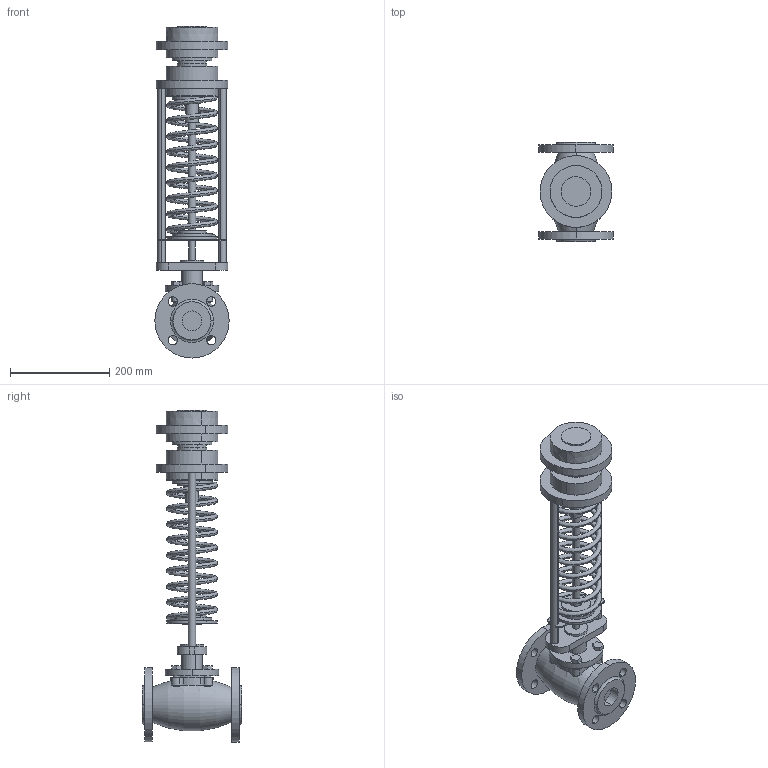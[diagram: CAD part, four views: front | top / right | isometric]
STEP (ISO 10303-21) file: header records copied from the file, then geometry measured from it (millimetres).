
FILE_DESCRIPTION (( 'STEP AP214' ), '1' );
FILE_NAME ('RDT-S, RDT-B DN-40 (0.1).STEP', '2025-12-12T09:22:13', ( '' ), ( '' ), 'SwSTEP 2.0', 'SolidWorks 2023', '' );
FILE_SCHEMA (( 'AUTOMOTIVE_DESIGN' ));
Length unit declared in the file: millimetre
Products named in the file (1): RDT-S, RDT-B DN-40 (0.1)
Bounding box: 150 x 200 x 670 mm (x, y, z)
Volume: 3942182.4 mm3; surface area: 448627.7 mm2
Topology: 1 solids, 2 shells, 241 faces, 593 edges, 385 vertices
Faces by surface type: cylinder 118, plane 96, cone 16, torus 7, bspline 4
Entity records: 12926 total; most frequent: CARTESIAN_POINT 6942, DIRECTION 1324, ORIENTED_EDGE 1186, EDGE_CURVE 593, AXIS2_PLACEMENT_3D 532, VERTEX_POINT 385, EDGE_LOOP 302, CIRCLE 294
